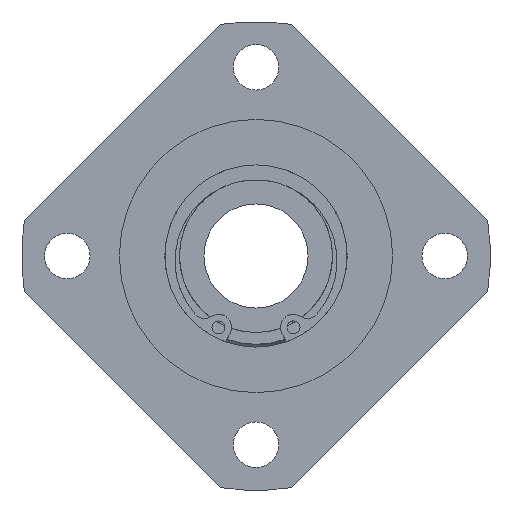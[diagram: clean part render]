
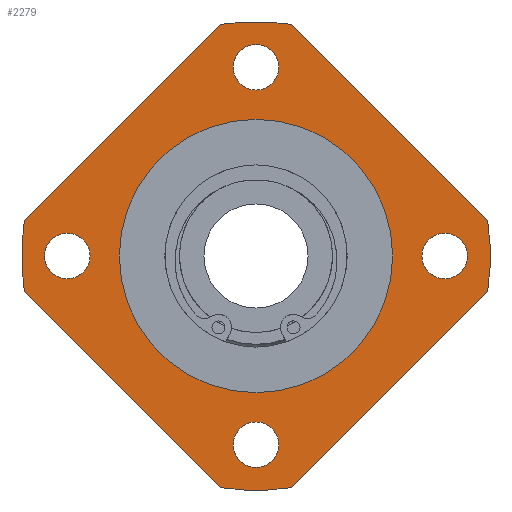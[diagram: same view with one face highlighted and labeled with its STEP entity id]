
A CAD part, left-side view. The second image highlights one B-rep face of the part: STEP entity #2279.
In plain terms, the highlighted planar face has unit normal (-1, 0, 0).
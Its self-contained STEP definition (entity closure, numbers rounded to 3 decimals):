
#1862=CARTESIAN_POINT('',(9.0,29.,-3.5));
#1863=VERTEX_POINT('',#1862);
#1864=CARTESIAN_POINT('',(9.,29.,0.));
#1865=DIRECTION('',(1.0,0.0,0.0));
#1866=DIRECTION('',(0.0,0.0,-1.0));
#1867=AXIS2_PLACEMENT_3D('',#1864,#1865,#1866);
#1868=CIRCLE('',#1867,3.5);
#1869=EDGE_CURVE('',#1863,#1863,#1868,.T.);
#1890=CARTESIAN_POINT('',(9.0,-3.5,-29.));
#1891=VERTEX_POINT('',#1890);
#1892=CARTESIAN_POINT('',(9.,0.,-29.));
#1893=DIRECTION('',(1.0,0.0,0.0));
#1894=DIRECTION('',(0.0,-1.0,0.0));
#1895=AXIS2_PLACEMENT_3D('',#1892,#1893,#1894);
#1896=CIRCLE('',#1895,3.5);
#1897=EDGE_CURVE('',#1891,#1891,#1896,.T.);
#1918=CARTESIAN_POINT('',(9.0,-29.,3.5));
#1919=VERTEX_POINT('',#1918);
#1920=CARTESIAN_POINT('',(9.,-29.,0.));
#1921=DIRECTION('',(1.0,0.0,0.0));
#1922=DIRECTION('',(0.0,0.0,1.0));
#1923=AXIS2_PLACEMENT_3D('',#1920,#1921,#1922);
#1924=CIRCLE('',#1923,3.5);
#1925=EDGE_CURVE('',#1919,#1919,#1924,.T.);
#1946=CARTESIAN_POINT('',(9.0,3.5,29.));
#1947=VERTEX_POINT('',#1946);
#1948=CARTESIAN_POINT('',(9.,0.,29.));
#1949=DIRECTION('',(1.0,0.0,0.0));
#1950=DIRECTION('',(0.0,1.0,0.0));
#1951=AXIS2_PLACEMENT_3D('',#1948,#1949,#1950);
#1952=CIRCLE('',#1951,3.5);
#1953=EDGE_CURVE('',#1947,#1947,#1952,.T.);
#1973=CARTESIAN_POINT('',(9.0,-5.423,35.589));
#1974=VERTEX_POINT('',#1973);
#1981=CARTESIAN_POINT('',(9.0,-35.589,5.423));
#1982=VERTEX_POINT('',#1981);
#1983=CARTESIAN_POINT('',(9.0,-35.589,5.423));
#1984=DIRECTION('',(0.0,0.707,0.707));
#1985=VECTOR('',#1984,42.661);
#1986=LINE('',#1983,#1985);
#1987=EDGE_CURVE('',#1982,#1974,#1986,.T.);
#2013=CARTESIAN_POINT('',(9.0,5.423,-35.589));
#2014=VERTEX_POINT('',#2013);
#2021=CARTESIAN_POINT('',(9.0,35.589,-5.423));
#2022=VERTEX_POINT('',#2021);
#2023=CARTESIAN_POINT('',(9.0,35.589,-5.423));
#2024=DIRECTION('',(0.0,-0.707,-0.707));
#2025=VECTOR('',#2024,42.661);
#2026=LINE('',#2023,#2025);
#2027=EDGE_CURVE('',#2022,#2014,#2026,.T.);
#2053=CARTESIAN_POINT('',(9.0,-35.589,-5.423));
#2054=VERTEX_POINT('',#2053);
#2061=CARTESIAN_POINT('',(9.0,-5.423,-35.589));
#2062=VERTEX_POINT('',#2061);
#2063=CARTESIAN_POINT('',(9.0,-5.423,-35.589));
#2064=DIRECTION('',(0.0,-0.707,0.707));
#2065=VECTOR('',#2064,42.661);
#2066=LINE('',#2063,#2065);
#2067=EDGE_CURVE('',#2062,#2054,#2066,.T.);
#2093=CARTESIAN_POINT('',(9.0,35.589,5.423));
#2094=VERTEX_POINT('',#2093);
#2101=CARTESIAN_POINT('',(9.0,5.423,35.589));
#2102=VERTEX_POINT('',#2101);
#2103=CARTESIAN_POINT('',(9.0,5.423,35.589));
#2104=DIRECTION('',(0.0,0.707,-0.707));
#2105=VECTOR('',#2104,42.661);
#2106=LINE('',#2103,#2105);
#2107=EDGE_CURVE('',#2102,#2094,#2106,.T.);
#2187=CARTESIAN_POINT('',(9.,0.0,0.0));
#2188=DIRECTION('',(-1.0,0.0,0.0));
#2189=DIRECTION('',(0.0,0.0,1.0));
#2190=AXIS2_PLACEMENT_3D('',#2187,#2188,#2189);
#2191=CIRCLE('',#2190,36.0);
#2192=EDGE_CURVE('',#2094,#2022,#2191,.T.);
#2207=CARTESIAN_POINT('',(9.,0.0,0.0));
#2208=DIRECTION('',(-1.0,0.0,0.0));
#2209=DIRECTION('',(0.0,0.0,1.0));
#2210=AXIS2_PLACEMENT_3D('',#2207,#2208,#2209);
#2211=CIRCLE('',#2210,36.0);
#2212=EDGE_CURVE('',#2014,#2062,#2211,.T.);
#2223=CARTESIAN_POINT('',(9.,0.0,0.0));
#2224=DIRECTION('',(-1.0,0.0,0.0));
#2225=DIRECTION('',(0.0,0.0,1.0));
#2226=AXIS2_PLACEMENT_3D('',#2223,#2224,#2225);
#2227=CIRCLE('',#2226,36.0);
#2228=EDGE_CURVE('',#2054,#1982,#2227,.T.);
#2235=CARTESIAN_POINT('',(9.,0.0,28.5));
#2236=DIRECTION('',(-1.0,0.0,0.0));
#2237=DIRECTION('',(0.0,0.0,1.0));
#2238=AXIS2_PLACEMENT_3D('',#2235,#2236,#2237);
#2239=PLANE('',#2238);
#2240=ORIENTED_EDGE('',*,*,#1987,.T.);
#2241=CARTESIAN_POINT('',(9.,0.0,0.0));
#2242=DIRECTION('',(-1.0,0.0,0.0));
#2243=DIRECTION('',(0.0,0.0,1.0));
#2244=AXIS2_PLACEMENT_3D('',#2241,#2242,#2243);
#2245=CIRCLE('',#2244,36.0);
#2246=EDGE_CURVE('',#1974,#2102,#2245,.T.);
#2247=ORIENTED_EDGE('',*,*,#2246,.T.);
#2248=ORIENTED_EDGE('',*,*,#2107,.T.);
#2249=ORIENTED_EDGE('',*,*,#2192,.T.);
#2250=ORIENTED_EDGE('',*,*,#2027,.T.);
#2251=ORIENTED_EDGE('',*,*,#2212,.T.);
#2252=ORIENTED_EDGE('',*,*,#2067,.T.);
#2253=ORIENTED_EDGE('',*,*,#2228,.T.);
#2254=EDGE_LOOP('',(#2240,#2247,#2248,#2249,#2250,#2251,#2252,#2253));
#2255=FACE_OUTER_BOUND('',#2254,.T.);
#2256=ORIENTED_EDGE('',*,*,#1869,.T.);
#2257=EDGE_LOOP('',(#2256));
#2258=FACE_BOUND('',#2257,.T.);
#2259=ORIENTED_EDGE('',*,*,#1897,.T.);
#2260=EDGE_LOOP('',(#2259));
#2261=FACE_BOUND('',#2260,.T.);
#2262=ORIENTED_EDGE('',*,*,#1925,.T.);
#2263=EDGE_LOOP('',(#2262));
#2264=FACE_BOUND('',#2263,.T.);
#2265=ORIENTED_EDGE('',*,*,#1953,.T.);
#2266=EDGE_LOOP('',(#2265));
#2267=FACE_BOUND('',#2266,.T.);
#2268=CARTESIAN_POINT('',(9.0,0.0,21.));
#2269=VERTEX_POINT('',#2268);
#2270=CARTESIAN_POINT('',(9.0,0.0,0.0));
#2271=DIRECTION('',(-1.0,0.0,0.0));
#2272=DIRECTION('',(0.0,0.0,1.0));
#2273=AXIS2_PLACEMENT_3D('',#2270,#2271,#2272);
#2274=CIRCLE('',#2273,21.);
#2275=EDGE_CURVE('',#2269,#2269,#2274,.T.);
#2276=ORIENTED_EDGE('',*,*,#2275,.F.);
#2277=EDGE_LOOP('',(#2276));
#2278=FACE_BOUND('',#2277,.T.);
#2279=ADVANCED_FACE('',(#2255,#2258,#2261,#2264,#2267,#2278),#2239,.T.);
